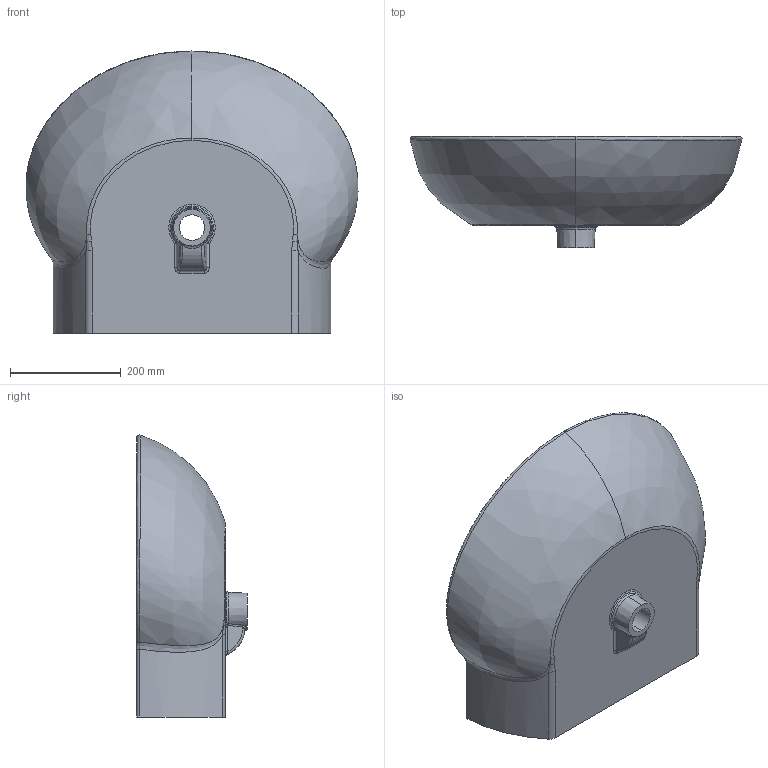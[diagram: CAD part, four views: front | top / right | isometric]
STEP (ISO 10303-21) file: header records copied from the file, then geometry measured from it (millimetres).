
FILE_DESCRIPTION (( 'STEP AP203' ), '1' );
FILE_NAME ('FALP06051T0M.STEP', '2019-01-31T14:04:04', ( '' ), ( '' ), 'SwSTEP 2.0', 'SolidWorks 2019', '' );
FILE_SCHEMA (( 'CONFIG_CONTROL_DESIGN' ));
Length unit declared in the file: millimetre
Products named in the file (1): FALP06051T0M
Bounding box: 598.42 x 200 x 508.31 mm (x, y, z)
Volume: 21450067.5 mm3; surface area: 791530 mm2
Topology: 1 solids, 1 shells, 82 faces, 186 edges, 109 vertices
Faces by surface type: bspline 35, cylinder 20, plane 10, torus 7, cone 6, sphere 4
Entity records: 6865 total; most frequent: CARTESIAN_POINT 5172, ORIENTED_EDGE 368, DIRECTION 299, EDGE_CURVE 184, AXIS2_PLACEMENT_3D 134, VERTEX_POINT 109, EDGE_LOOP 89, CIRCLE 86
